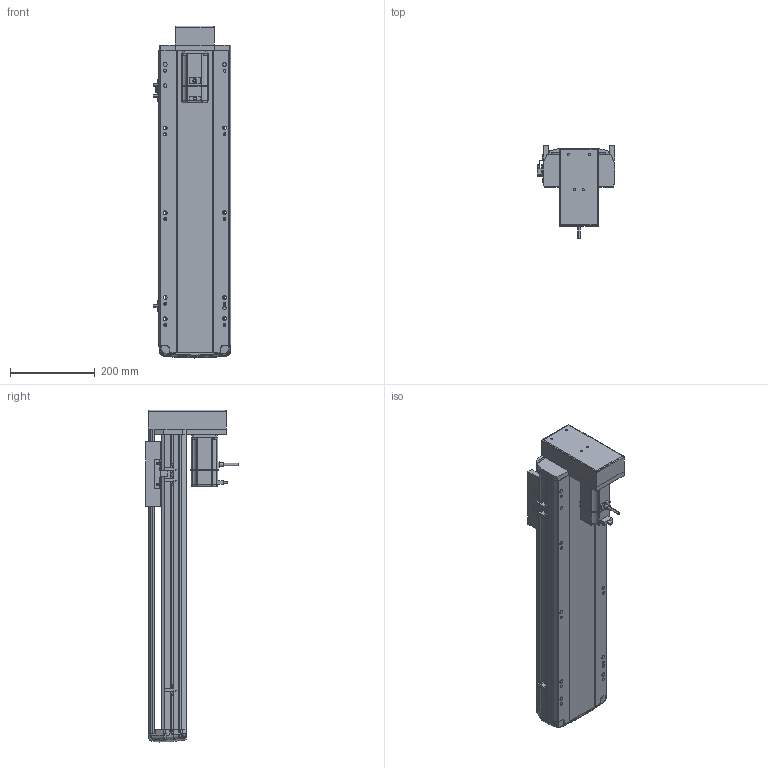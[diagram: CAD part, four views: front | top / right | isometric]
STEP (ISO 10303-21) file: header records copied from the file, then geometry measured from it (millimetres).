
FILE_DESCRIPTION (( 'STEP AP214' ), '1' );
FILE_NAME ('RTH17-XX-500-M-M40-C4.STEP', '2025-10-24T09:04:38', ( '' ), ( '' ), 'SwSTEP 2.0', 'SolidWorks 2018', '' );
FILE_SCHEMA (( 'AUTOMOTIVE_DESIGN' ));
Length unit declared in the file: millimetre
Products named in the file (10): N_RTH17-M-008-P40电机安装板下折^RTH17-XX-XX-M-M40-C4（方程式）; N_OMRON EE-SX672 換覜ん^RTH17-XX-XX-M-M40-C4ㄗ源最宒ㄘ; N_RTH-BL-012 感应片(外置)^RTH17-XX-XX-M-M40-C4（方程式）; N_RTH17-M-007上盖^RTH17-XX-XX-M-M40-C4（方程式）; N_M40^RTH17-XX-XX-M-M40-C4（方程式）; N_RTH17-M-011底座^RTH17-XX-XX-M-M40-C4（方程式）; RTH17-XX-500-M-M40-C4; N_RTH17-E-004丝杆螺母连接座^RTH17-XX-XX-M-M40-C4（方程式）; N_RTH17-GY-001P^RTH17-XX-XX-M-M40-C4（方程式）; N_RTH17-M-018盖子^RTH17-XX-XX-M-M40-C4（方程式）
Assembly tree (11 placements, depth 2):
  RTH17-XX-500-M-M40-C4
    N_RTH17-M-011底座^RTH17-XX-XX-M-M40-C4（方程式）
    N_RTH17-M-007上盖^RTH17-XX-XX-M-M40-C4（方程式）
    N_M40^RTH17-XX-XX-M-M40-C4（方程式）
    N_OMRON EE-SX672 換覜ん^RTH17-XX-XX-M-M40-C4ㄗ源最宒ㄘ  x3
    N_RTH-BL-012 感应片(外置)^RTH17-XX-XX-M-M40-C4（方程式）
    N_RTH17-M-008-P40电机安装板下折^RTH17-XX-XX-M-M40-C4（方程式）
    N_RTH17-M-018盖子^RTH17-XX-XX-M-M40-C4（方程式）
    N_RTH17-E-004丝杆螺母连接座^RTH17-XX-XX-M-M40-C4（方程式）
    N_RTH17-GY-001P^RTH17-XX-XX-M-M40-C4（方程式）
Bounding box: 183.5 x 219 x 783.27 mm (x, y, z)
Volume: 6409922.3 mm3; surface area: 960229.8 mm2
Topology: 10 solids, 12 shells, 1647 faces, 4590 edges, 2992 vertices
Faces by surface type: plane 830, cylinder 450, bspline 330, cone 28, torus 9
Entity records: 47948 total; most frequent: CARTESIAN_POINT 19406, ORIENTED_EDGE 6204, DIRECTION 5110, EDGE_CURVE 3106, VERTEX_POINT 2028, LINE 1756, VECTOR 1756, AXIS2_PLACEMENT_3D 1677
